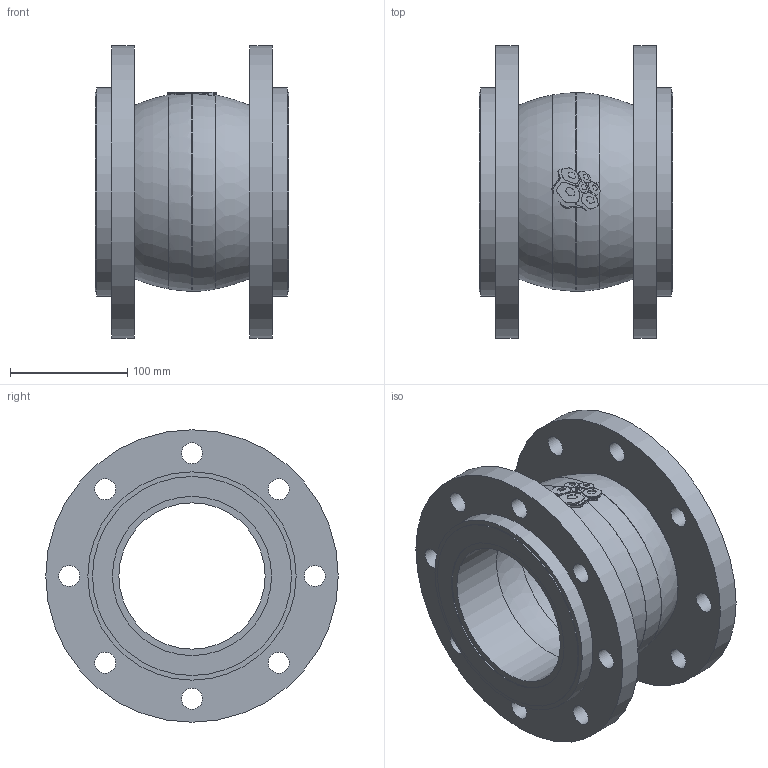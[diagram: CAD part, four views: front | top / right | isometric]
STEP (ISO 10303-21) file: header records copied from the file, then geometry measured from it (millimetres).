
FILE_DESCRIPTION(('STEP AP203'), '1');
FILE_NAME('3D_500_501-125-EPDM-FF', '', ('UNSPECIFIED'), ('UNSPECIFIED'), 'C3D Converter', 'C3D Toolkit', '');
FILE_SCHEMA(('CONFIG_CONTROL_DESIGN'));
Length unit declared in the file: millimetre
Bounding box: 165 x 250 x 250 mm (x, y, z)
Volume: 2400796.7 mm3; surface area: 311630.9 mm2
Topology: 1 solids, 1 shells, 879 faces, 2601 edges, 1740 vertices
Faces by surface type: plane 831, cylinder 26, torus 22
Full cylindrical faces by diameter (mm): 18 x16, 125 x2, 136 x2, 170 x2, 178 x2, 250 x2
Entity records: 37898 total; most frequent: CARTESIAN_POINT 8992, ORIENTED_EDGE 5122, DIRECTION 3571, EDGE_CURVE 2561, VERTEX_POINT 1735, LINE 1627, VECTOR 1627, AXIS2_PLACEMENT_3D 972
